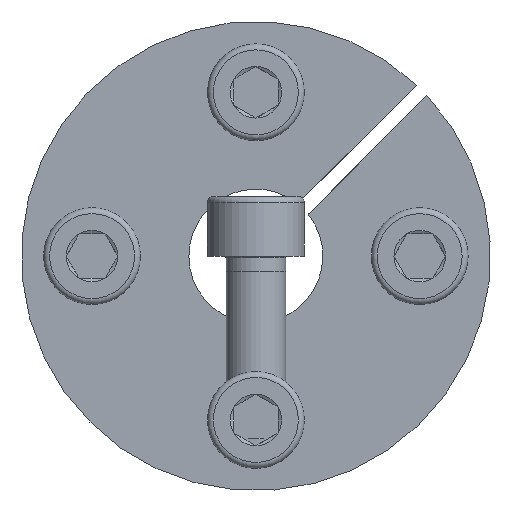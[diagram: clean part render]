
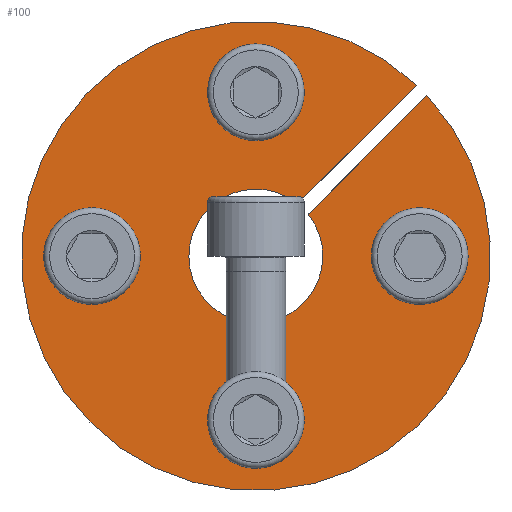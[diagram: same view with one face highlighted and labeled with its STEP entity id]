
A CAD part, front view. The second image highlights one B-rep face of the part: STEP entity #100.
In plain terms, the highlighted planar face has unit normal (0, -1, 0).
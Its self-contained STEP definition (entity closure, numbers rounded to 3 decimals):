
#100 = ADVANCED_FACE( '', ( #206, #207, #208, #209, #210 ), #211, .F. );
#206 = FACE_OUTER_BOUND( '', #312, .T. );
#207 = FACE_BOUND( '', #313, .T. );
#208 = FACE_BOUND( '', #314, .T. );
#209 = FACE_BOUND( '', #315, .T. );
#210 = FACE_BOUND( '', #316, .T. );
#211 = PLANE( '', #317 );
#312 = EDGE_LOOP( '', ( #520, #521, #522, #523 ) );
#313 = EDGE_LOOP( '', ( #524 ) );
#314 = EDGE_LOOP( '', ( #525 ) );
#315 = EDGE_LOOP( '', ( #526 ) );
#316 = EDGE_LOOP( '', ( #527 ) );
#317 = AXIS2_PLACEMENT_3D( '', #528, #529, #530 );
#520 = ORIENTED_EDGE( '', *, *, #619, .T. );
#521 = ORIENTED_EDGE( '', *, *, #645, .T. );
#522 = ORIENTED_EDGE( '', *, *, #656, .T. );
#523 = ORIENTED_EDGE( '', *, *, #627, .F. );
#524 = ORIENTED_EDGE( '', *, *, #613, .F. );
#525 = ORIENTED_EDGE( '', *, *, #634, .F. );
#526 = ORIENTED_EDGE( '', *, *, #593, .F. );
#527 = ORIENTED_EDGE( '', *, *, #607, .F. );
#528 = CARTESIAN_POINT( '', ( 0., 0., 31.5 ) );
#529 = DIRECTION( '', ( 0., 1., 0. ) );
#530 = DIRECTION( '', ( 1., 0., 0. ) );
#593 = EDGE_CURVE( '', #720, #720, #721, .T. );
#607 = EDGE_CURVE( '', #745, #745, #746, .T. );
#613 = EDGE_CURVE( '', #754, #754, #755, .T. );
#619 = EDGE_CURVE( '', #764, #762, #765, .T. );
#627 = EDGE_CURVE( '', #764, #778, #779, .T. );
#634 = EDGE_CURVE( '', #789, #789, #790, .T. );
#645 = EDGE_CURVE( '', #762, #804, #806, .T. );
#656 = EDGE_CURVE( '', #804, #778, #819, .T. );
#720 = VERTEX_POINT( '', #967 );
#721 = CIRCLE( '', #968, 4.5 );
#745 = VERTEX_POINT( '', #994 );
#746 = CIRCLE( '', #995, 4.5 );
#754 = VERTEX_POINT( '', #1009 );
#755 = CIRCLE( '', #1010, 4.5 );
#762 = VERTEX_POINT( '', #1017 );
#764 = VERTEX_POINT( '', #1020 );
#765 = LINE( '', #1021, #1022 );
#778 = VERTEX_POINT( '', #1040 );
#779 = CIRCLE( '', #1041, 9. );
#789 = VERTEX_POINT( '', #1052 );
#790 = CIRCLE( '', #1053, 4.5 );
#804 = VERTEX_POINT( '', #1068 );
#806 = CIRCLE( '', #1071, 31.5 );
#819 = LINE( '', #1087, #1088 );
#967 = CARTESIAN_POINT( '', ( -4.5, 0., -22. ) );
#968 = AXIS2_PLACEMENT_3D( '', #1125, #1126, #1127 );
#994 = CARTESIAN_POINT( '', ( -22., 0., 4.5 ) );
#995 = AXIS2_PLACEMENT_3D( '', #1154, #1155, #1156 );
#1009 = CARTESIAN_POINT( '', ( 4.5, 0., 22. ) );
#1010 = AXIS2_PLACEMENT_3D( '', #1160, #1161, #1162 );
#1017 = CARTESIAN_POINT( '', ( 21.556, 0., 22.97 ) );
#1020 = CARTESIAN_POINT( '', ( 5.617, 0., 7.032 ) );
#1021 = CARTESIAN_POINT( '', ( 5.617, 0., 7.032 ) );
#1022 = VECTOR( '', #1170, 1000. );
#1040 = CARTESIAN_POINT( '', ( 7.032, 0., 5.617 ) );
#1041 = AXIS2_PLACEMENT_3D( '', #1179, #1180, #1181 );
#1052 = CARTESIAN_POINT( '', ( 22., 0., -4.5 ) );
#1053 = AXIS2_PLACEMENT_3D( '', #1192, #1193, #1194 );
#1068 = CARTESIAN_POINT( '', ( 22.97, 0., 21.556 ) );
#1071 = AXIS2_PLACEMENT_3D( '', #1212, #1213, #1214 );
#1087 = CARTESIAN_POINT( '', ( 22.981, 0., 21.567 ) );
#1088 = VECTOR( '', #1224, 1000. );
#1125 = CARTESIAN_POINT( '', ( 0., 0., -22. ) );
#1126 = DIRECTION( '', ( 0., -1., 0. ) );
#1127 = DIRECTION( '', ( -1., 0., 0. ) );
#1154 = CARTESIAN_POINT( '', ( -22., 0., 0. ) );
#1155 = DIRECTION( '', ( 0., -1., 0. ) );
#1156 = DIRECTION( '', ( 0., 0., 1. ) );
#1160 = CARTESIAN_POINT( '', ( 0., 0., 22. ) );
#1161 = DIRECTION( '', ( 0., -1., 0. ) );
#1162 = DIRECTION( '', ( 1., 0., 0. ) );
#1170 = DIRECTION( '', ( 0.707, 0., 0.707 ) );
#1179 = CARTESIAN_POINT( '', ( 0., 0., 0. ) );
#1180 = DIRECTION( '', ( 0., -1., 0. ) );
#1181 = DIRECTION( '', ( 0., 0., -1. ) );
#1192 = CARTESIAN_POINT( '', ( 22., 0., 0. ) );
#1193 = DIRECTION( '', ( 0., -1., 0. ) );
#1194 = DIRECTION( '', ( 0., 0., -1. ) );
#1212 = CARTESIAN_POINT( '', ( 0., 0., 0. ) );
#1213 = DIRECTION( '', ( 0., -1., 0. ) );
#1214 = DIRECTION( '', ( 0., 0., -1. ) );
#1224 = DIRECTION( '', ( -0.707, 0., -0.707 ) );
